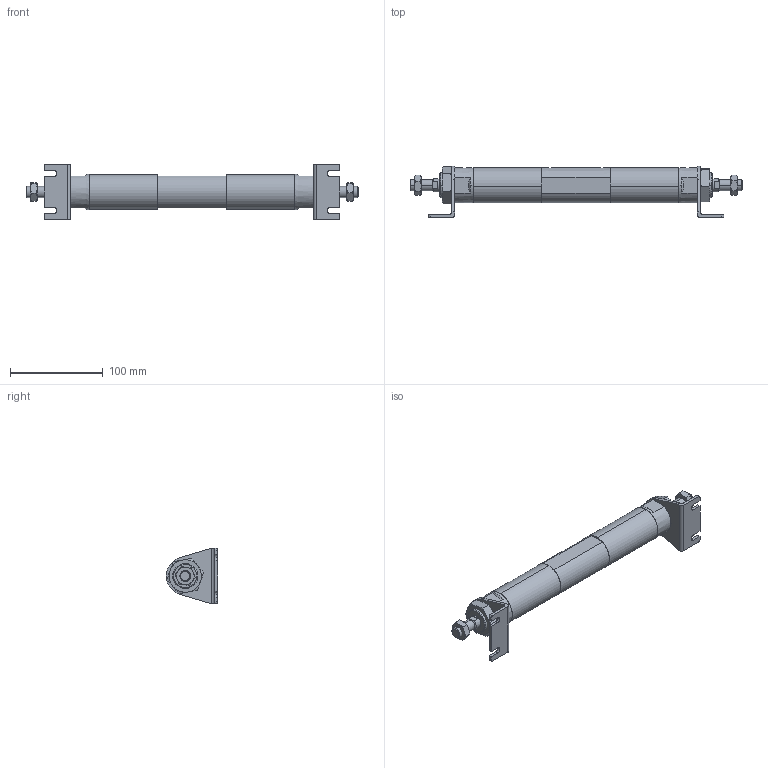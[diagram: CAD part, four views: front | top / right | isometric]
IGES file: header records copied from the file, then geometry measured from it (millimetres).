
Start section: SolidWorks IGES file using analytic representation for surfaces
Global section: file name: C:\Users\Toshiba\Desktop\JGD7-32-25-25-L.IGS; native system: SolidWorks 2014; preprocessor: SolidWorks 2014; author: Toshiba; date: 160419.152407; units: millimetre
Bounding box: 358 x 55.5 x 60 mm (x, y, z)
Surface area: 73104.3 mm2 (no closed solid volume)
Topology: 0 solids, 0 shells, 226 faces, 3632 edges, 3624 vertices
Faces by surface type: bspline 138, revolution 88
